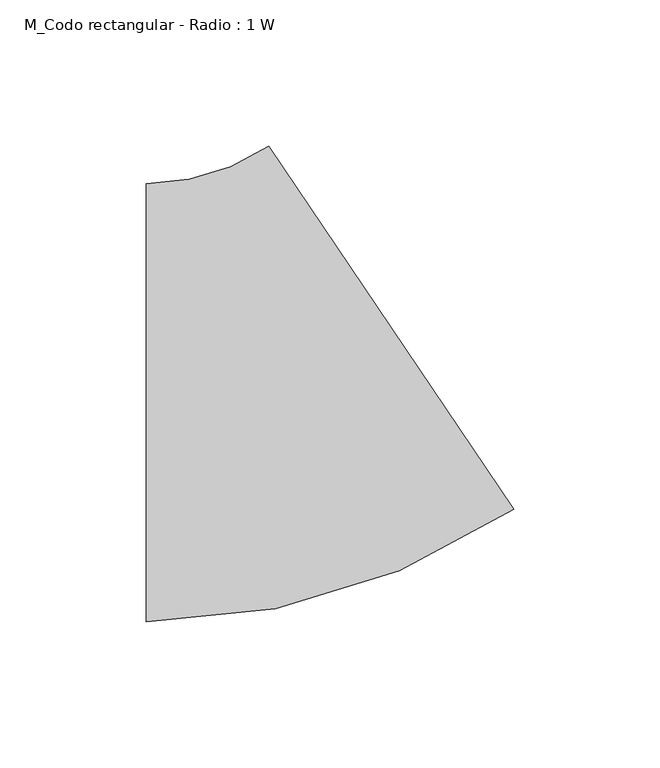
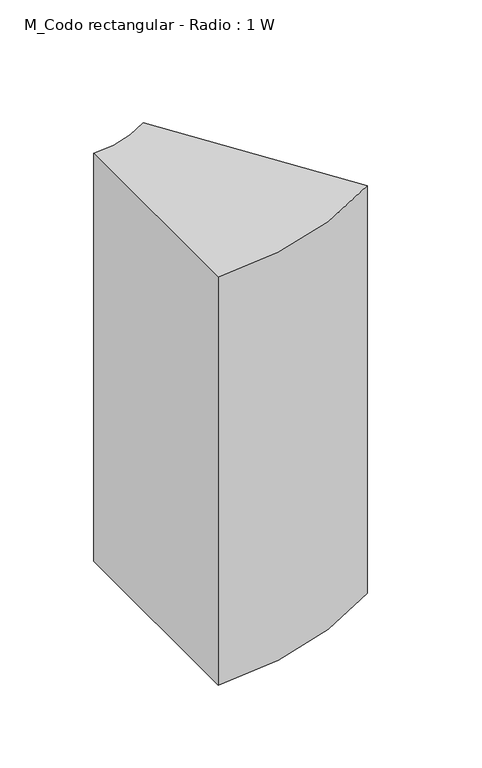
"""IFC4 building model written with IfcOpenShell, lengths in millimetres: duct fitting geometry, M_Codo rectangular - Radio : 1 W."""

from ifc_helpers import new_model, si_unit, point, frame, frame_2d, origin, place, context, project, spatial, polyline, circle_curve, trimmed, segment, composite_curve, outline, extrude, source, transform, mapped, element, save


def m_codo_rectangular_radio_1_w_d46262f9(model_context):
    return source(origin(), model_context, "Body", "SweptSolid", [
        extrude(outline(composite_curve([segment(trimmed(circle_curve(frame_2d((-45.8596022, 150.0)), 225.0), [point((79.9588011, -36.5334538))], [point((-45.8596022, -75.0))], False, "CARTESIAN"), True, "CONTINUOUS"), segment(polyline([(-45.8596022, -75.0), (-45.8596022, 75.0)]), True, "CONTINUOUS"), segment(trimmed(circle_curve(frame_2d((-45.8596022, 150.0)), 75.0), [point((-45.8596022, 75.0))], [point((-3.9201345, 87.8221821))], True, "CARTESIAN"), True, "CONTINUOUS"), segment(polyline([(-3.9201345, 87.8221821), (79.9588011, -36.5334538)]), True, "CONTINUOUS")], self_intersect=False)), frame((0.0, 0.0, -150.0), z_axis=(0.0, 0.0, 1.0), x_axis=(1.0, 0.0, 0.0)), (0.0, 0.0, 1.0), 300.0),
    ])


if __name__ == "__main__":
    model = new_model("IFC4")
    model_context = context("Model", 3, world=origin())
    ifc_project = project(units=[si_unit("LENGTHUNIT", "METRE", prefix="MILLI")], contexts=[model_context])
    site = spatial("IfcSite", under=ifc_project)
    building = spatial("IfcBuilding", under=site)
    placement = place(None, origin())
    m_codo_rectangular_radio_1_w_shape = m_codo_rectangular_radio_1_w_d46262f9(model_context)
    element("IfcDuctFitting", 1, ObjectType="M_Codo rectangular - Radio : 1 W", at=placement, inside=building, context=model_context, shape_type="MappedRepresentation", body=[
        mapped(m_codo_rectangular_radio_1_w_shape, transform((0.0, 0.0, 0.0), x_axis=(1.0, 0.0, 0.0), y_axis=(0.0, 1.0, 0.0), z_axis=(0.0, 0.0, 1.0))),
    ])
    save(model, "model.ifc")
